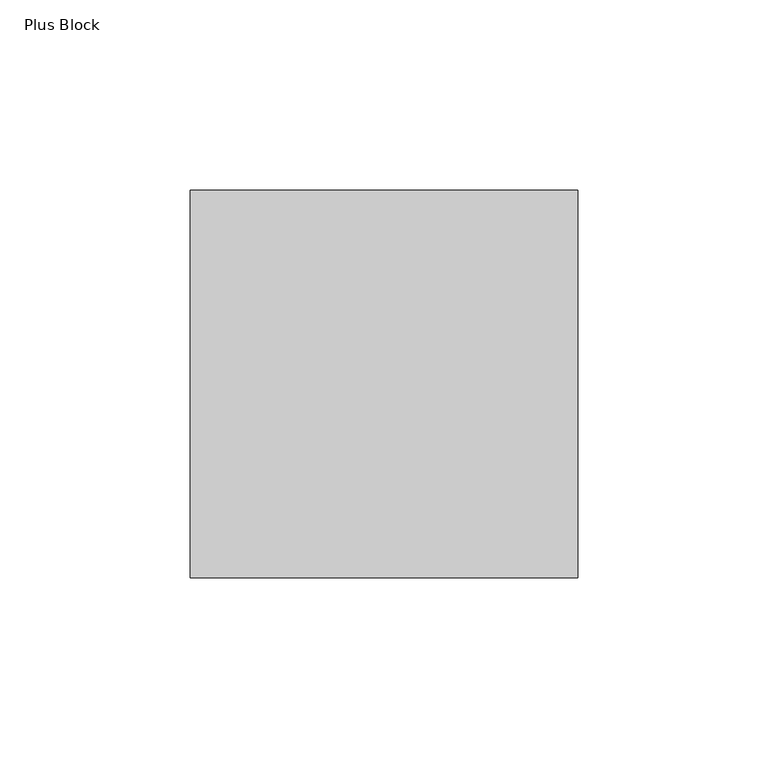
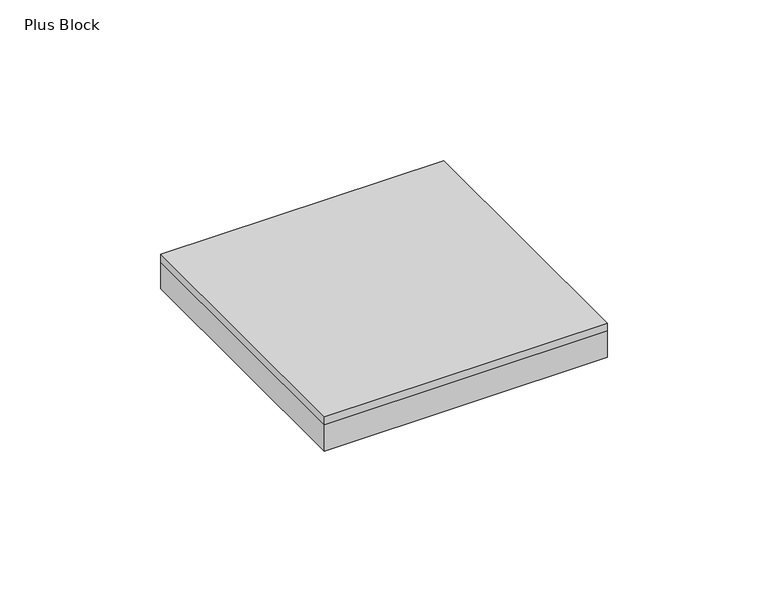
"""IFC4 building model written with IfcOpenShell, lengths in millimetres: proxy geometry, FilzFelt_Plus_Block : Plus Block."""

from ifc_helpers import new_model, si_unit, frame, origin, origin_with_axes, place, context, project, spatial, polyline, outline, extrude, source, transform, mapped, element, save


def plus_block_96e03e77(model_context):
    return source(origin(), model_context, "Body", "SweptSolid", [
        extrude(outline(polyline([(50.8333333, 50.8333333), (152.5, 50.8333333), (152.5, -50.8333333), (50.8333333, -50.8333333), (50.8333333, 50.8333333)])), frame((0.0, 0.0, 10.0210937), z_axis=(0.0, 0.0, 1.0), x_axis=(1.0, 0.0, 0.0)), (0.0, 0.0, 1.0), 2.9765625),
        extrude(outline(polyline([(50.8333333, 50.8333333), (152.5, 50.8333333), (152.5, -50.8333333), (50.8333333, -50.8333333), (50.8333333, 50.8333333)])), origin_with_axes(), (0.0, 0.0, 1.0), 10.0210938),
    ])


if __name__ == "__main__":
    model = new_model("IFC4")
    model_context = context("Model", 3, world=origin())
    ifc_project = project(units=[si_unit("LENGTHUNIT", "METRE", prefix="MILLI")], contexts=[model_context])
    site = spatial("IfcSite", under=ifc_project)
    building = spatial("IfcBuilding", under=site)
    placement = place(None, origin())
    plus_block_shape = plus_block_96e03e77(model_context)
    element("IfcBuildingElementProxy", 1, Name="FilzFelt_Plus_Block : Plus Block", ObjectType="FilzFelt_Plus_Block : Plus Block", at=placement, inside=building, context=model_context, shape_type="MappedRepresentation", body=[
        mapped(plus_block_shape, transform((0.0, 0.0, 0.0), x_axis=(1.0, 0.0, 0.0), y_axis=(0.0, 1.0, 0.0), z_axis=(0.0, 0.0, 1.0))),
    ])
    save(model, "model.ifc")
